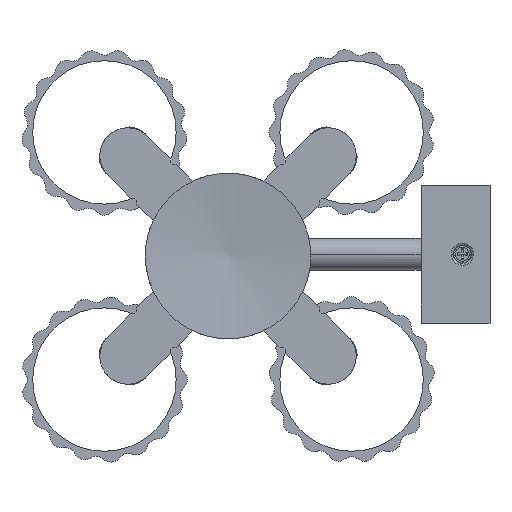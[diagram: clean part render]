
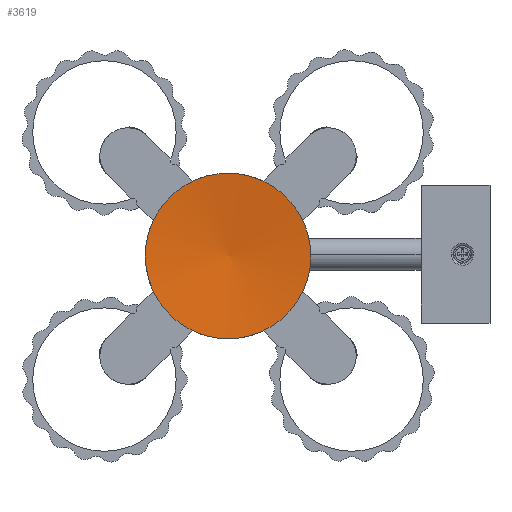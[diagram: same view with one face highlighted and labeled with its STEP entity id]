
A CAD part, front view. The second image highlights one B-rep face of the part: STEP entity #3619.
In plain terms, the highlighted free-form (B-spline) face has degree [2, 2] with [3, 3] control points.
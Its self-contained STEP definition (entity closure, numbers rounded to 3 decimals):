
#148 = CARTESIAN_POINT ( 'NONE',  ( 4056.673, 97.51, -5911.909 ) ) ;
#358 = ORIENTED_EDGE ( 'NONE', *, *, #30609, .T. ) ;
#2197 = CARTESIAN_POINT ( 'NONE',  ( 4154.194, 127.726, -5941.898 ) ) ;
#2479 = CARTESIAN_POINT ( 'NONE',  ( 4184.194, 124.778, -5941.337 ) ) ;
#2633 = CARTESIAN_POINT ( 'NONE',  ( 4184.194, 130.73, -5911.912 ) ) ;
#2949 = CARTESIAN_POINT ( 'NONE',  ( 4112.583, 138.958, -5944.205 ) ) ;
#3619 = ADVANCED_FACE ( 'NONE', ( #30322 ), #20248, .T. ) ;
#4671 = CARTESIAN_POINT ( 'NONE',  ( 4124.194, 127.726, -5911.898 ) ) ;
#6060 = EDGE_CURVE ( 'NONE', #29991, #25748, #29795, .T. ) ;
#7883 = CARTESIAN_POINT ( 'NONE',  ( 4184.194, 124.783, -5882.485 ) ) ;
#10352 = CARTESIAN_POINT ( 'NONE',  ( 4112.583, 145.49, -5911.913 ) ) ;
#12674 = CARTESIAN_POINT ( 'NONE',  ( 4056.673, 92.867, -5888.934 ) ) ;
#15179 = CARTESIAN_POINT ( 'NONE',  ( 4124.194, 127.726, -5941.898 ) ) ;
#17505 = CARTESIAN_POINT ( 'NONE',  ( 4184.194, 127.726, -5911.898 ) ) ;
#19335 = CARTESIAN_POINT ( 'NONE',  ( 4184.194, 127.726, -5881.898 ) ) ;
#20248 =( BOUNDED_SURFACE ( )  B_SPLINE_SURFACE ( 2, 2, ( 
 ( #7883, #2633, #2479 ),
 ( #25508, #10352, #2949 ),
 ( #12674, #148, #30160 ) ),
 .UNSPECIFIED., .F., .F., .T. ) 
 B_SPLINE_SURFACE_WITH_KNOTS ( ( 3, 3 ),
 ( 3, 3 ),
 ( -0.699, 0.199 ),
 ( -1.77, -1.371 ),
 .UNSPECIFIED. ) 
 GEOMETRIC_REPRESENTATION_ITEM ( )  RATIONAL_B_SPLINE_SURFACE ( (
 ( 1., 0.98, 1.),
 ( 0.901, 0.883, 0.901),
 ( 1., 0.98, 1.) ) ) 
 REPRESENTATION_ITEM ( '' )  SURFACE ( )  );
#20298 = CARTESIAN_POINT ( 'NONE',  ( 4184.194, 127.726, -5941.898 ) ) ;
#20887 = EDGE_LOOP ( 'NONE', ( #358, #22396 ) ) ;
#21803 = CARTESIAN_POINT ( 'NONE',  ( 4124.194, 127.726, -5881.898 ) ) ;
#22396 = ORIENTED_EDGE ( 'NONE', *, *, #6060, .T. ) ;
#24054 = CARTESIAN_POINT ( 'NONE',  ( 4184.194, 127.726, -5911.898 ) ) ;
#24596 = CARTESIAN_POINT ( 'NONE',  ( 4124.194, 127.726, -5911.898 ) ) ;
#25508 = CARTESIAN_POINT ( 'NONE',  ( 4112.583, 138.964, -5879.62 ) ) ;
#25748 = VERTEX_POINT ( 'NONE', #24054 ) ;
#28419 = CARTESIAN_POINT ( 'NONE',  ( 4124.194, 127.726, -5911.898 ) ) ;
#29067 = CARTESIAN_POINT ( 'NONE',  ( 4184.194, 127.726, -5911.898 ) ) ;
#29795 =( BOUNDED_CURVE ( )  B_SPLINE_CURVE ( 2, ( #4671, #15179, #2197, #20298, #17505 ),
 .UNSPECIFIED., .F., .F. ) 
 B_SPLINE_CURVE_WITH_KNOTS ( ( 3, 2, 3 ),
 ( 4.712, 6.283, 7.854 ),
 .UNSPECIFIED. ) 
 CURVE ( )  GEOMETRIC_REPRESENTATION_ITEM ( )  RATIONAL_B_SPLINE_CURVE ( ( 1., 0.707, 1., 0.707, 1. ) ) 
 REPRESENTATION_ITEM ( '' )  );
#29991 = VERTEX_POINT ( 'NONE', #28419 ) ;
#30160 = CARTESIAN_POINT ( 'NONE',  ( 4056.673, 92.863, -5934.882 ) ) ;
#30322 = FACE_OUTER_BOUND ( 'NONE', #20887, .T. ) ;
#30609 = EDGE_CURVE ( 'NONE', #25748, #29991, #31103, .T. ) ;
#31103 =( BOUNDED_CURVE ( )  B_SPLINE_CURVE ( 2, ( #29067, #19335, #32211, #21803, #24596 ),
 .UNSPECIFIED., .F., .F. ) 
 B_SPLINE_CURVE_WITH_KNOTS ( ( 3, 2, 3 ),
 ( 1.571, 3.142, 4.712 ),
 .UNSPECIFIED. ) 
 CURVE ( )  GEOMETRIC_REPRESENTATION_ITEM ( )  RATIONAL_B_SPLINE_CURVE ( ( 1., 0.707, 1., 0.707, 1. ) ) 
 REPRESENTATION_ITEM ( '' )  );
#32211 = CARTESIAN_POINT ( 'NONE',  ( 4154.194, 127.726, -5881.898 ) ) ;
